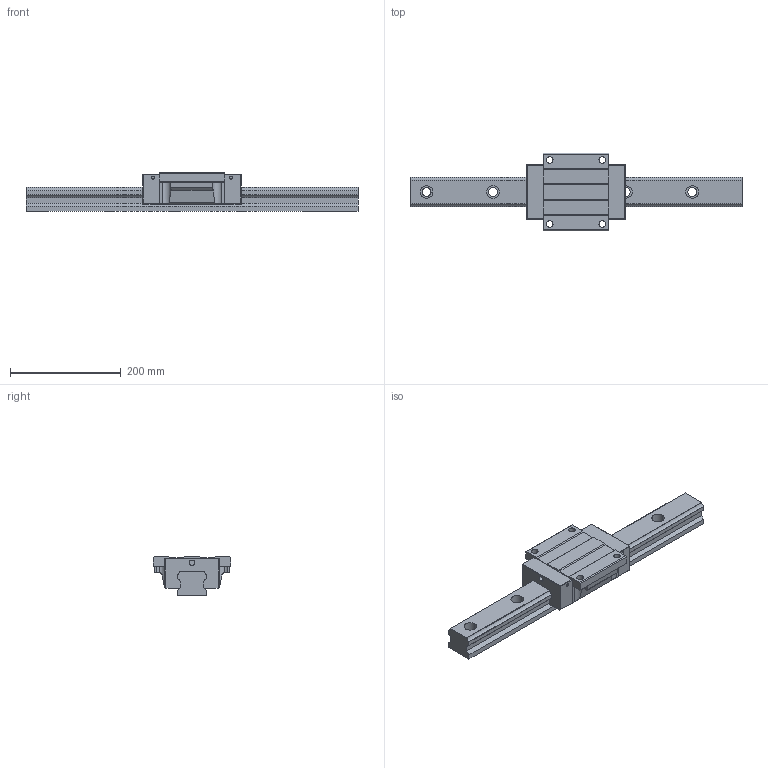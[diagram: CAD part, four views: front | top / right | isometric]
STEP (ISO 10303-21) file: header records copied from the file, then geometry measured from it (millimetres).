
FILE_DESCRIPTION (( 'STEP AP203' ), '1' );
FILE_NAME ('TRH55FL-SZ.STEP', '2024-06-26T06:49:46', ( '' ), ( '' ), 'SwSTEP 2.0', 'SolidWorks 2022', '' );
FILE_SCHEMA (( 'CONFIG_CONTROL_DESIGN' ));
Length unit declared in the file: millimetre
Products named in the file (1): TRH55FL-SZ
Bounding box: 600 x 140 x 70 mm (x, y, z)
Volume: 1968065.9 mm3; surface area: 226205.8 mm2
Topology: 2 solids, 2 shells, 201 faces, 546 edges, 356 vertices
Faces by surface type: plane 101, cylinder 96, sphere 4
Entity records: 6519 total; most frequent: CARTESIAN_POINT 1230, DIRECTION 1108, ORIENTED_EDGE 1084, EDGE_CURVE 542, AXIS2_PLACEMENT_3D 384, VERTEX_POINT 356, LINE 340, VECTOR 340
